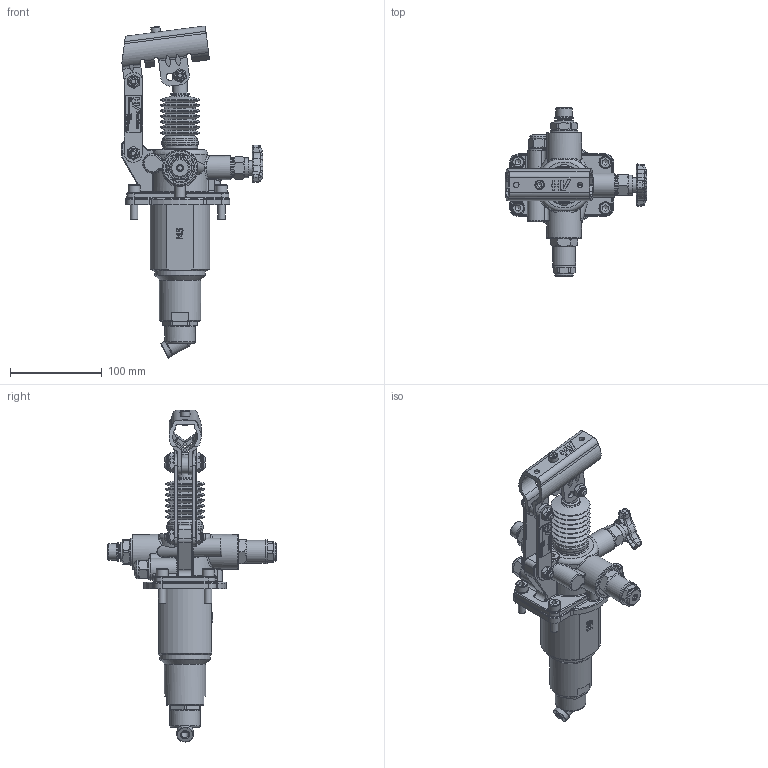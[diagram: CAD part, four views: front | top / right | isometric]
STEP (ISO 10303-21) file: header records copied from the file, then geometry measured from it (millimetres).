
FILE_DESCRIPTION((''),'2;1');
FILE_NAME('G:\HV_HYDRAULIC\AZIENDA_HV_HYDRAULIC\ARCHIVIO_DISEGNI\5_PRODOTTI_FINITI\1_POMPE_MANUALI\6071_PM2V_5-80\6071.0134_PM2V_5-80_a-byB-s_(HV)\6071.0134.stp','2024-03-29T11:22:01',('christian.scardovi'),(''),'Autodesk Inventor 2013','Autodesk Inventor 2013','');
FILE_SCHEMA(('AUTOMOTIVE_DESIGN { 1 0 10303 214 1 1 1 1 }'));
Length unit declared in the file: millimetre
Products named in the file (1): 6071.0134
Bounding box: 154 x 183 x 361.27 mm (x, y, z)
Volume: 767255.9 mm3; surface area: 183083.9 mm2
Topology: 3 solids, 4 shells, 1949 faces, 4929 edges, 3086 vertices
Faces by surface type: plane 811, cylinder 442, bspline 314, cone 196, torus 171, sphere 15
Full cylindrical faces by diameter (mm): 2 x2, 3 x9, 4 x1, 5 x10, 6 x4, 6.5 x3, 6.647 x1, 8 x17, 8.917 x1, 9 x3, 9.2 x1, 10 x3, 11 x5, 11.05 x6, 12 x5, 13 x4, 13.2 x1, 14 x9, 14.95 x4, 15 x1, 16 x2, 16.6 x3, 17 x1, 18 x8, 18.4 x1, 18.631 x1, 20 x7, 21 x1, 21.8 x2, 22 x1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
Entity records: 69023 total; most frequent: CARTESIAN_POINT 24537, ORIENTED_EDGE 8908, DIRECTION 8085, EDGE_CURVE 4454, AXIS2_PLACEMENT_3D 2991, VERTEX_POINT 2951, EDGE_LOOP 2426, VECTOR 2103
